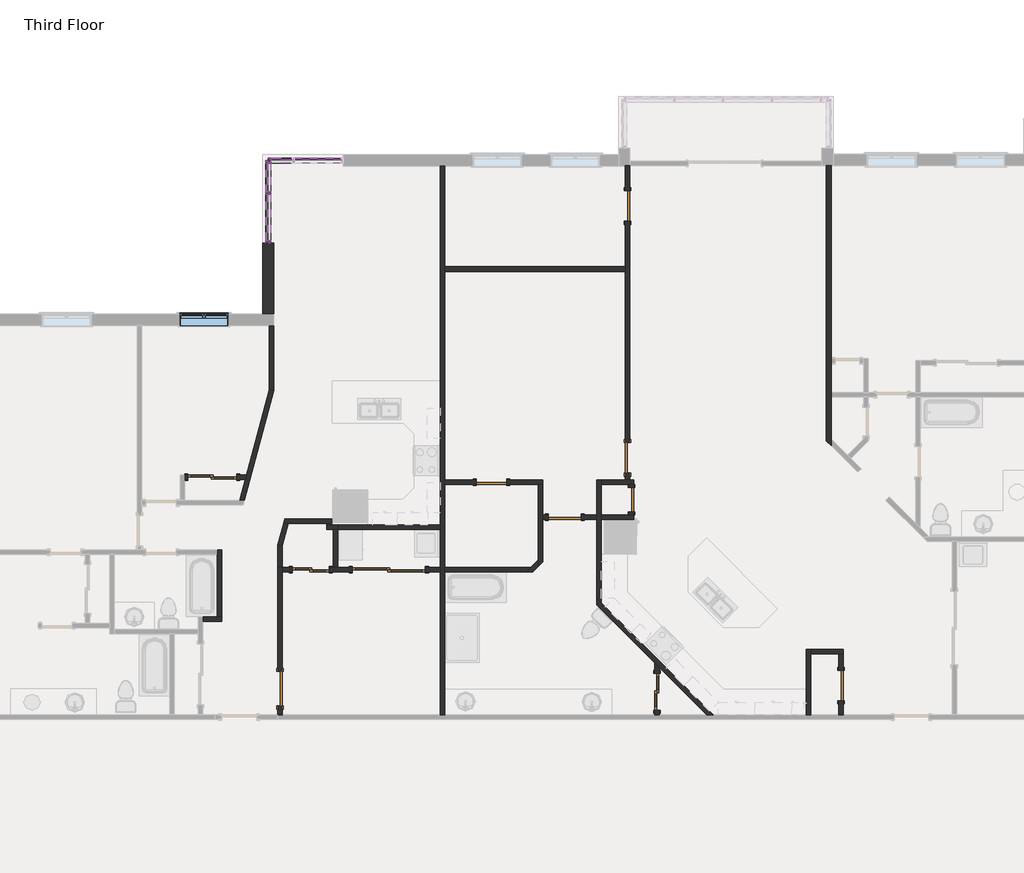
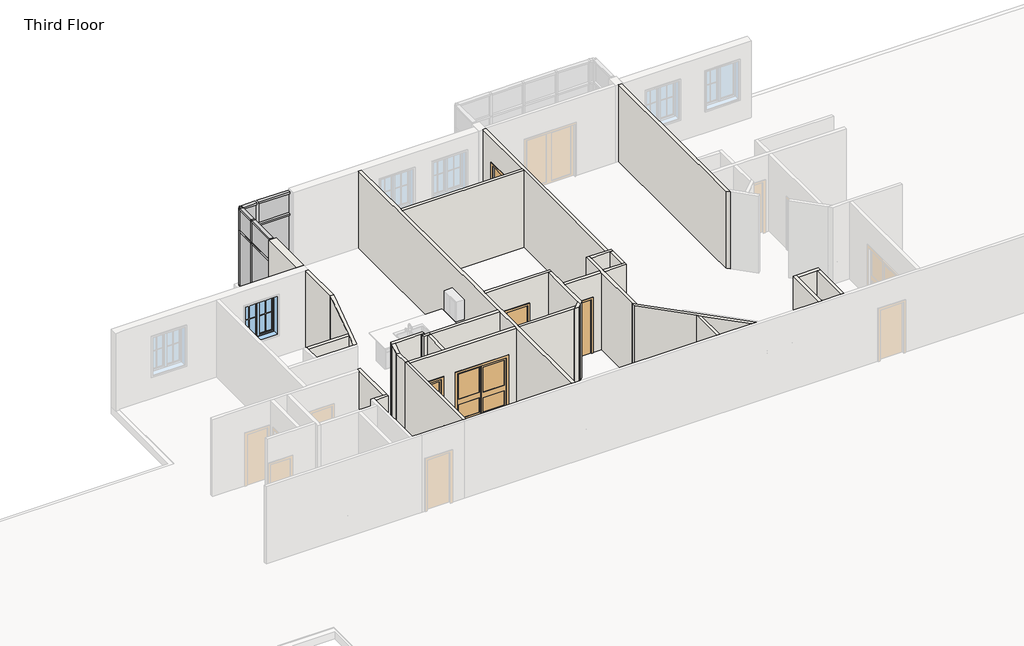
# One storey, part 9 of 17: 32 walls, 19 members, 11 doors, 8 plates, 1 window.
"""IFC4 building model written with IfcOpenShell, lengths in millimetres."""

from ifc_helpers import new_model, si_unit, frame, origin, place, context, project, spatial, polyline, outline, extrude, faceted_brep, transform, mapped, element, save
from components import door_e2285e44, door_d8f5dbb5, door_f2b275c1, door_d141acb4, door_c29894e6, door_88c23cd7, door_900f836f, door_caaf2a11, rectangular_mullion_rectangular_mullion_1_fa3625a1, rectangular_mullion_rectangular_mullion_1_7cbf0b94, rectangular_mullion_rectangular_mullion_1_a50b3cda, rectangular_mullion_rectangular_mullion_1_5cd4c5ac, rectangular_mullion_rectangular_mullion_1_6186cc23, rectangular_mullion_rectangular_mullion_1_049a2e78, rectangular_mullion_rectangular_mullion_1_13524bf9, rectangular_mullion_rectangular_mullion_1_a1888574, rectangular_mullion_rectangular_mullion_1_55d4f6ce, rectangular_mullion_rectangular_mullion_1_d8cc73e0, system_panel_glazed_0ed27d1d, system_panel_glazed_134bacdb, system_panel_glazed_53e6f9fb, system_panel_glazed_cb820e14, system_panel_glazed_7c98c5cb, system_panel_glazed_dc3c0d95, system_panel_glazed_bae44e10, system_panel_glazed_9feb64c3, window_33528cc2

model = new_model("IFC4")

# Units and contexts
model_context = context("Model", 3, world=origin())
ifc_project = project(units=[si_unit("LENGTHUNIT", "METRE", prefix="MILLI")], contexts=[model_context])

# Site, building, storey
site = spatial("IfcSite", under=ifc_project)
building = spatial("IfcBuilding", under=site)
storey = spatial("IfcBuildingStorey", under=building, Name="Third Floor", Elevation=6096.0)

# Doors
placement = place(None, origin())
door_shape = door_e2285e44(model_context)
element("IfcDoor", 1, ObjectType="Single-Flush : 24\" x 80\"", at=placement, inside=storey, context=model_context, shape_type="MappedRepresentation", body=[
    mapped(door_shape, transform((26745.480585, 7734.3572102, 6096.0), x_axis=(0.0, 1.0, 0.0), y_axis=(-1.0, 0.0, 0.0), z_axis=(0.0, 0.0, 1.0))),
])
door_2_shape = door_d8f5dbb5(model_context)
element("IfcDoor", 2, ObjectType="Single-Flush : 30\" x 80\"", at=placement, inside=storey, context=model_context, shape_type="MappedRepresentation", body=[
    mapped(door_2_shape, transform((23246.1202044, 8168.006996, 6096.0), x_axis=(-1.0, 0.0, 0.0), y_axis=(0.0, -1.0, 0.0), z_axis=(0.0, 0.0, 1.0))),
])
element("IfcDoor", 3, ObjectType="Single-Flush : 30\" x 80\"", at=placement, inside=storey, context=model_context, shape_type="MappedRepresentation", body=[
    mapped(door_2_shape, transform((31977.0076897, 3089.6091714, 6096.0), x_axis=(0.0, -1.0, 0.0), y_axis=(1.0, 0.0, 0.0), z_axis=(0.0, 0.0, 1.0))),
])
door_3_shape = door_f2b275c1(model_context)
element("IfcDoor", 4, ObjectType="Single-Flush : 30\" x 80\"", at=placement, inside=storey, context=model_context, shape_type="MappedRepresentation", body=[
    mapped(door_3_shape, transform((26645.8573571, 8777.606996, 6096.0), x_axis=(0.0, -1.0, 0.0), y_axis=(1.0, 0.0, 0.0), z_axis=(0.0, 0.0, 1.0))),
])
element("IfcDoor", 5, ObjectType="Single-Flush : 30\" x 80\"", at=placement, inside=storey, context=model_context, shape_type="MappedRepresentation", body=[
    mapped(door_3_shape, transform((26645.8573571, 15067.4365339, 6096.0), x_axis=(0.0, 1.0, 0.0), y_axis=(-1.0, 0.0, 0.0), z_axis=(0.0, 0.0, 1.0))),
])
door_4_shape = door_d141acb4(model_context)
element("IfcDoor", 6, ObjectType="Single-Flush : 32\" x 84\"", at=placement, inside=storey, context=model_context, shape_type="MappedRepresentation", body=[
    mapped(door_4_shape, transform((25078.7830518, 7300.7074244, 6096.0), x_axis=(-1.0, 0.0, 0.0), y_axis=(0.0, -1.0, 0.0), z_axis=(0.0, 0.0, 1.0))),
])
door_5_shape = door_c29894e6(model_context)
element("IfcDoor", 7, ObjectType="Single-Flush : 34\" x 80\"", at=placement, inside=storey, context=model_context, shape_type="MappedRepresentation", body=[
    mapped(door_5_shape, transform((17970.6993195, 3013.4091714, 6096.0), x_axis=(0.0, -1.0, 0.0), y_axis=(1.0, 0.0, 0.0), z_axis=(0.0, 0.0, 1.0))),
])
door_6_shape = door_88c23cd7(model_context)
element("IfcDoor", 8, ObjectType="Sliding-Closet : 36\" x 80\"", at=placement, inside=storey, context=model_context, shape_type="MappedRepresentation", body=[
    mapped(door_6_shape, transform((18737.6267988, 6113.0380642, 6096.0), x_axis=(-1.0, 0.0, 0.0), y_axis=(0.0, -1.0, 0.0), z_axis=(0.0, 0.0, 1.0))),
])
element("IfcDoor", 9, ObjectType="Sliding-Closet : 36\" x 80\"", at=placement, inside=storey, context=model_context, shape_type="MappedRepresentation", body=[
    mapped(door_6_shape, transform((27511.15388, 2937.2091714, 6096.0), x_axis=(0.0, 1.0, 0.0), y_axis=(-1.0, 0.0, 0.0), z_axis=(0.0, 0.0, 1.0))),
])
door_7_shape = door_900f836f(model_context)
element("IfcDoor", 10, ObjectType="Sliding-Closet : 48\" x 80\"", at=placement, inside=storey, context=model_context, shape_type="MappedRepresentation", body=[
    mapped(door_7_shape, transform((16278.4083594, 8170.5576127, 6096.0), x_axis=(1.0, 0.0, 0.0), y_axis=(0.0, 1.0, 0.0), z_axis=(0.0, 0.0, 1.0))),
])
door_8_shape = door_caaf2a11(model_context)
element("IfcDoor", 11, ObjectType="Sliding-Closet : 72\" x 80\"", at=placement, inside=storey, context=model_context, shape_type="MappedRepresentation", body=[
    mapped(door_8_shape, transform((20687.6058176, 6113.0380642, 6096.0), x_axis=(-1.0, 0.0, 0.0), y_axis=(0.0, -1.0, 0.0), z_axis=(0.0, 0.0, 1.0))),
])

# Members
rectangular_mullion_rectangular_mullion_1_shape = rectangular_mullion_rectangular_mullion_1_fa3625a1(model_context)
element("IfcMember", 12, ObjectType="Rectangular Mullion : Rectangular Mullion 1", at=placement, inside=storey, context=model_context, shape_type="MappedRepresentation", body=[
    mapped(rectangular_mullion_rectangular_mullion_1_shape, transform((18332.1198568, 16206.4791823, 9144.0), x_axis=(0.0, 0.0, 1.0), y_axis=(0.0, 1.0, 0.0), z_axis=(-1.0, 0.0, 0.0))),
])
rectangular_mullion_rectangular_mullion_1_2_shape = rectangular_mullion_rectangular_mullion_1_7cbf0b94(model_context)
element("IfcMember", 13, ObjectType="Rectangular Mullion : Rectangular Mullion 1", at=placement, inside=storey, context=model_context, shape_type="MappedRepresentation", body=[
    mapped(rectangular_mullion_rectangular_mullion_1_2_shape, transform((18332.1198568, 16206.4791823, 8261.35), x_axis=(0.0, 0.0, 1.0), y_axis=(0.0, 1.0, 0.0), z_axis=(-1.0, 0.0, 0.0))),
])
rectangular_mullion_rectangular_mullion_1_3_shape = rectangular_mullion_rectangular_mullion_1_a50b3cda(model_context)
element("IfcMember", 14, ObjectType="Rectangular Mullion : Rectangular Mullion 1", at=placement, inside=storey, context=model_context, shape_type="MappedRepresentation", body=[
    mapped(rectangular_mullion_rectangular_mullion_1_3_shape, transform((17678.8246608, 16206.4791823, 6096.0), x_axis=(-1.0, 0.0, 0.0), y_axis=(0.0, 1.0, 0.0), z_axis=(0.0, 0.0, -1.0))),
])
rectangular_mullion_rectangular_mullion_1_4_shape = rectangular_mullion_rectangular_mullion_1_5cd4c5ac(model_context)
element("IfcMember", 15, ObjectType="Rectangular Mullion : Rectangular Mullion 1", at=placement, inside=storey, context=model_context, shape_type="MappedRepresentation", body=[
    mapped(rectangular_mullion_rectangular_mullion_1_4_shape, transform((17678.8246608, 16206.4791823, 8261.35), x_axis=(-1.0, 0.0, 0.0), y_axis=(0.0, 1.0, 0.0), z_axis=(0.0, 0.0, -1.0))),
])
element("IfcMember", 16, ObjectType="Rectangular Mullion : Rectangular Mullion 1", at=placement, inside=storey, context=model_context, shape_type="MappedRepresentation", body=[
    mapped(rectangular_mullion_rectangular_mullion_1_shape, transform((17678.8246608, 15365.3662252, 9144.0), x_axis=(0.0, 0.0, 1.0), y_axis=(1.0, 0.0, 0.0), z_axis=(0.0, 1.0, 0.0))),
])
element("IfcMember", 17, ObjectType="Rectangular Mullion : Rectangular Mullion 1", at=placement, inside=storey, context=model_context, shape_type="MappedRepresentation", body=[
    mapped(rectangular_mullion_rectangular_mullion_1_shape, transform((17678.8246608, 14209.6662249, 6096.0), x_axis=(0.0, 0.0, -1.0), y_axis=(1.0, 0.0, 0.0), z_axis=(0.0, -1.0, 0.0))),
])
element("IfcMember", 18, ObjectType="Rectangular Mullion : Rectangular Mullion 1", at=placement, inside=storey, context=model_context, shape_type="MappedRepresentation", body=[
    mapped(rectangular_mullion_rectangular_mullion_1_3_shape, transform((17678.8246608, 16206.4791823, 6096.0), x_axis=(0.0, 1.0, 0.0), y_axis=(1.0, 0.0, 0.0), z_axis=(0.0, 0.0, -1.0))),
])
element("IfcMember", 19, ObjectType="Rectangular Mullion : Rectangular Mullion 1", at=placement, inside=storey, context=model_context, shape_type="MappedRepresentation", body=[
    mapped(rectangular_mullion_rectangular_mullion_1_4_shape, transform((17678.8246608, 16206.4791823, 8261.35), x_axis=(0.0, 1.0, 0.0), y_axis=(1.0, 0.0, 0.0), z_axis=(0.0, 0.0, -1.0))),
])
element("IfcMember", 20, ObjectType="Rectangular Mullion : Rectangular Mullion 1", at=placement, inside=storey, context=model_context, shape_type="MappedRepresentation", body=[
    mapped(rectangular_mullion_rectangular_mullion_1_4_shape, transform((17678.8246608, 14146.1662249, 9144.0), x_axis=(0.0, -1.0, 0.0), y_axis=(1.0, 0.0, 0.0), z_axis=(0.0, 0.0, 1.0))),
])
element("IfcMember", 21, ObjectType="Rectangular Mullion : Rectangular Mullion 1", at=placement, inside=storey, context=model_context, shape_type="MappedRepresentation", body=[
    mapped(rectangular_mullion_rectangular_mullion_1_3_shape, transform((17678.8246608, 14146.1662249, 8261.35), x_axis=(0.0, -1.0, 0.0), y_axis=(1.0, 0.0, 0.0), z_axis=(0.0, 0.0, 1.0))),
])
element("IfcMember", 22, ObjectType="Rectangular Mullion : Rectangular Mullion 1", at=placement, inside=storey, context=model_context, shape_type="MappedRepresentation", body=[
    mapped(rectangular_mullion_rectangular_mullion_1_2_shape, transform((17678.8246608, 15365.3662252, 8261.35), x_axis=(0.0, 0.0, 1.0), y_axis=(1.0, 0.0, 0.0), z_axis=(0.0, 1.0, 0.0))),
])
rectangular_mullion_rectangular_mullion_1_5_shape = rectangular_mullion_rectangular_mullion_1_6186cc23(model_context)
element("IfcMember", 23, ObjectType="Rectangular Mullion : Rectangular Mullion 1", at=placement, inside=storey, context=model_context, shape_type="MappedRepresentation", body=[
    mapped(rectangular_mullion_rectangular_mullion_1_5_shape, transform((17678.8246608, 15397.1162252, 6096.0), x_axis=(0.0, 1.0, 0.0), y_axis=(1.0, 0.0, 0.0), z_axis=(0.0, 0.0, -1.0))),
])
rectangular_mullion_rectangular_mullion_1_6_shape = rectangular_mullion_rectangular_mullion_1_049a2e78(model_context)
element("IfcMember", 24, ObjectType="Rectangular Mullion : Rectangular Mullion 1", at=placement, inside=storey, context=model_context, shape_type="MappedRepresentation", body=[
    mapped(rectangular_mullion_rectangular_mullion_1_6_shape, transform((17678.8246608, 15397.1162252, 8261.35), x_axis=(0.0, 1.0, 0.0), y_axis=(1.0, 0.0, 0.0), z_axis=(0.0, 0.0, -1.0))),
])
rectangular_mullion_rectangular_mullion_1_7_shape = rectangular_mullion_rectangular_mullion_1_13524bf9(model_context)
element("IfcMember", 25, ObjectType="Rectangular Mullion : Rectangular Mullion 1", at=placement, inside=storey, context=model_context, shape_type="MappedRepresentation", body=[
    mapped(rectangular_mullion_rectangular_mullion_1_7_shape, transform((17678.8246608, 16142.9791823, 9144.0), x_axis=(0.0, 0.0, 1.0), y_axis=(1.0, 0.0, 0.0), z_axis=(0.0, 1.0, 0.0))),
])
element("IfcMember", 26, ObjectType="Rectangular Mullion : Rectangular Mullion 1", at=placement, inside=storey, context=model_context, shape_type="MappedRepresentation", body=[
    mapped(rectangular_mullion_rectangular_mullion_1_7_shape, transform((17678.8246608, 15428.8662252, 6096.0), x_axis=(0.0, 0.0, -1.0), y_axis=(1.0, 0.0, 0.0), z_axis=(0.0, -1.0, 0.0))),
])
rectangular_mullion_rectangular_mullion_1_8_shape = rectangular_mullion_rectangular_mullion_1_a1888574(model_context)
element("IfcMember", 27, ObjectType="Rectangular Mullion : Rectangular Mullion 1", at=placement, inside=storey, context=model_context, shape_type="MappedRepresentation", body=[
    mapped(rectangular_mullion_rectangular_mullion_1_8_shape, transform((17678.8246608, 16142.9791823, 8261.35), x_axis=(0.0, 0.0, 1.0), y_axis=(1.0, 0.0, 0.0), z_axis=(0.0, 1.0, 0.0))),
])
rectangular_mullion_rectangular_mullion_1_9_shape = rectangular_mullion_rectangular_mullion_1_55d4f6ce(model_context)
element("IfcMember", 28, ObjectType="Rectangular Mullion : Rectangular Mullion 1", at=placement, inside=storey, context=model_context, shape_type="MappedRepresentation", body=[
    mapped(rectangular_mullion_rectangular_mullion_1_9_shape, transform((17742.3246608, 16206.4791823, 9144.0), x_axis=(0.0, 0.0, 1.0), y_axis=(0.0, 1.0, 0.0), z_axis=(-1.0, 0.0, 0.0))),
])
element("IfcMember", 29, ObjectType="Rectangular Mullion : Rectangular Mullion 1", at=placement, inside=storey, context=model_context, shape_type="MappedRepresentation", body=[
    mapped(rectangular_mullion_rectangular_mullion_1_9_shape, transform((18268.6198568, 16206.4791823, 6096.0), x_axis=(0.0, 0.0, -1.0), y_axis=(0.0, 1.0, 0.0), z_axis=(1.0, 0.0, 0.0))),
])
rectangular_mullion_rectangular_mullion_1_10_shape = rectangular_mullion_rectangular_mullion_1_d8cc73e0(model_context)
element("IfcMember", 30, ObjectType="Rectangular Mullion : Rectangular Mullion 1", at=placement, inside=storey, context=model_context, shape_type="MappedRepresentation", body=[
    mapped(rectangular_mullion_rectangular_mullion_1_10_shape, transform((17742.3246608, 16206.4791823, 8261.35), x_axis=(0.0, 0.0, 1.0), y_axis=(0.0, 1.0, 0.0), z_axis=(-1.0, 0.0, 0.0))),
])

# Plates
system_panel_glazed_shape = system_panel_glazed_0ed27d1d(model_context)
element("IfcPlate", 31, ObjectType="System Panel : Glazed", at=placement, inside=storey, context=model_context, shape_type="MappedRepresentation", body=[
    mapped(system_panel_glazed_shape, transform((18909.969857, 16206.4791823, 6159.5), x_axis=(-1.0, 0.0, 0.0), y_axis=(0.0, -1.0, 0.0), z_axis=(0.0, 0.0, 1.0))),
])
system_panel_glazed_2_shape = system_panel_glazed_134bacdb(model_context)
element("IfcPlate", 32, ObjectType="System Panel : Glazed", at=placement, inside=storey, context=model_context, shape_type="MappedRepresentation", body=[
    mapped(system_panel_glazed_2_shape, transform((18909.969857, 16206.4791823, 8293.1), x_axis=(-1.0, 0.0, 0.0), y_axis=(0.0, -1.0, 0.0), z_axis=(0.0, 0.0, 1.0))),
])
system_panel_glazed_3_shape = system_panel_glazed_53e6f9fb(model_context)
element("IfcPlate", 33, ObjectType="System Panel : Glazed", at=placement, inside=storey, context=model_context, shape_type="MappedRepresentation", body=[
    mapped(system_panel_glazed_3_shape, transform((17678.8246608, 14787.5162251, 6159.5), x_axis=(0.0, 1.0, 0.0), y_axis=(-1.0, 0.0, 0.0), z_axis=(0.0, 0.0, 1.0))),
])
system_panel_glazed_4_shape = system_panel_glazed_cb820e14(model_context)
element("IfcPlate", 34, ObjectType="System Panel : Glazed", at=placement, inside=storey, context=model_context, shape_type="MappedRepresentation", body=[
    mapped(system_panel_glazed_4_shape, transform((17678.8246608, 14787.5162251, 8293.1), x_axis=(0.0, 1.0, 0.0), y_axis=(-1.0, 0.0, 0.0), z_axis=(0.0, 0.0, 1.0))),
])
system_panel_glazed_5_shape = system_panel_glazed_7c98c5cb(model_context)
element("IfcPlate", 35, ObjectType="System Panel : Glazed", at=placement, inside=storey, context=model_context, shape_type="MappedRepresentation", body=[
    mapped(system_panel_glazed_5_shape, transform((17678.8246608, 15785.9227038, 6159.5), x_axis=(0.0, 1.0, 0.0), y_axis=(-1.0, 0.0, 0.0), z_axis=(0.0, 0.0, 1.0))),
])
system_panel_glazed_6_shape = system_panel_glazed_dc3c0d95(model_context)
element("IfcPlate", 36, ObjectType="System Panel : Glazed", at=placement, inside=storey, context=model_context, shape_type="MappedRepresentation", body=[
    mapped(system_panel_glazed_6_shape, transform((17678.8246608, 15785.9227038, 8293.1), x_axis=(0.0, 1.0, 0.0), y_axis=(-1.0, 0.0, 0.0), z_axis=(0.0, 0.0, 1.0))),
])
system_panel_glazed_7_shape = system_panel_glazed_bae44e10(model_context)
element("IfcPlate", 37, ObjectType="System Panel : Glazed", at=placement, inside=storey, context=model_context, shape_type="MappedRepresentation", body=[
    mapped(system_panel_glazed_7_shape, transform((18005.4722588, 16206.4791823, 6159.5), x_axis=(-1.0, 0.0, 0.0), y_axis=(0.0, -1.0, 0.0), z_axis=(0.0, 0.0, 1.0))),
])
system_panel_glazed_8_shape = system_panel_glazed_9feb64c3(model_context)
element("IfcPlate", 38, ObjectType="System Panel : Glazed", at=placement, inside=storey, context=model_context, shape_type="MappedRepresentation", body=[
    mapped(system_panel_glazed_8_shape, transform((18005.4722588, 16206.4791823, 8293.1), x_axis=(-1.0, 0.0, 0.0), y_axis=(0.0, -1.0, 0.0), z_axis=(0.0, 0.0, 1.0))),
])

# Walls
element("IfcWall", 39, ObjectType="Exterior - Brick on Wood Stud", at=placement, inside=storey, context=model_context, shape_type="SweptSolid", body=[
    extrude(outline(polyline([(17537.5371608, 12370.2302849), (17537.5371608, 14146.1662249), (17820.1121608, 14146.1662249), (17820.1121608, 12370.2302849), (17537.5371608, 12370.2302849)])), frame((0.0, 0.0, 6096.0), z_axis=(0.0, 0.0, 1.0), x_axis=(1.0, 0.0, 0.0)), (0.0, 0.0, 1.0), 3048.0),
])
element("IfcWall", 40, ObjectType="Interior - 4 1/2\" Partition", at=placement, inside=storey, context=model_context, shape_type="Brep", body=[
    faceted_brep([(22080.2073571, 2359.3591714, 6096.0), (22080.2073571, 5928.8880642, 6096.0), (22080.2073571, 6043.1880642, 6096.0), (22080.2073571, 8110.856996, 6096.0), (22080.2073571, 8225.156996, 6096.0), (22080.2073571, 13435.7238431, 6096.0), (22080.2073571, 13550.0238431, 6096.0), (22080.2073571, 16065.1916823, 6096.0), (22080.2073571, 16065.1916823, 9144.0), (22080.2073571, 13550.0238431, 9144.0), (22080.2073571, 13435.7238431, 9144.0), (22080.2073571, 8225.156996, 9144.0), (22080.2073571, 8110.856996, 9144.0), (22080.2073571, 6043.1880642, 9144.0), (22080.2073571, 5928.8880642, 9144.0), (22080.2073571, 2359.3591714, 9144.0), (21965.9073571, 2359.3591714, 6096.0), (21965.9073571, 2359.3591714, 9144.0), (21965.9073571, 5928.8880642, 9144.0), (21965.9073571, 6043.1880642, 9144.0), (21965.9073571, 6988.905075, 9144.0), (21965.9073571, 7103.205075, 9144.0), (21965.9073571, 16065.1916823, 9144.0), (21965.9073571, 16065.1916823, 6096.0), (21965.9073571, 7103.205075, 6096.0), (21965.9073571, 6988.905075, 6096.0), (21965.9073571, 6043.1880642, 6096.0), (21965.9073571, 5928.8880642, 6096.0)], [[[0, 1, 2, 3, 4, 5, 6, 7, 8, 9, 10, 11, 12, 13, 14, 15]], [[16, 17, 18, 19, 20, 21, 22, 23, 24, 25, 26, 27]], [[7, 6, 5, 4, 3, 2, 1, 0, 16, 27, 26, 25, 24, 23]], [[15, 14, 13, 12, 11, 10, 9, 8, 22, 21, 20, 19, 18, 17]], [[0, 15, 17, 16]], [[8, 7, 23, 22]]]),
])
element("IfcWall", 41, ObjectType="Interior - 4 1/2\" Partition", at=placement, inside=storey, context=model_context, shape_type="Brep", body=[
    faceted_brep([(31724.597822, 9089.3944324, 6096.0), (31724.597822, 9251.0390425, 6096.0), (31724.597822, 10300.8410099, 6096.0), (31724.597822, 10415.1410099, 6096.0), (31724.597822, 11149.7238431, 6096.0), (31724.597822, 11264.0238431, 6096.0), (31724.597822, 16077.0865339, 6096.0), (31724.597822, 16077.0865339, 9144.0), (31724.597822, 11264.0238431, 9144.0), (31724.597822, 11149.7238431, 9144.0), (31724.597822, 10415.1410099, 9144.0), (31724.597822, 10300.8410099, 9144.0), (31724.597822, 9251.0390425, 9144.0), (31724.597822, 9089.3944324, 9144.0), (31610.297822, 9203.6944324, 6096.0), (31610.297822, 9203.6944324, 9144.0), (31610.297822, 16077.0865339, 9144.0), (31610.297822, 16077.0865339, 6096.0)], [[[0, 1, 2, 3, 4, 5, 6, 7, 8, 9, 10, 11, 12, 13]], [[14, 15, 16, 17]], [[6, 5, 4, 3, 2, 1, 0, 14, 17]], [[13, 12, 11, 10, 9, 8, 7, 16, 15]], [[0, 13, 15, 14]], [[7, 6, 17, 16]]]),
])
element("IfcWall", 42, ObjectType="Interior - 4 1/2\" Partition", at=placement, inside=storey, context=model_context, shape_type="SweptSolid", body=[
    extrude(outline(polyline([(26588.7073571, 13435.7238431), (22080.2073571, 13435.7238431), (22080.2073571, 13550.0238431), (26588.7073571, 13550.0238431), (26588.7073571, 13435.7238431)])), frame((0.0, 0.0, 6096.0), z_axis=(0.0, 0.0, 1.0), x_axis=(1.0, 0.0, 0.0)), (0.0, 0.0, 1.0), 3048.0),
])
element("IfcWall", 43, ObjectType="Interior - 4 1/2\" Partition", at=placement, inside=storey, context=model_context, shape_type="Brep", body=[
    faceted_brep([(26703.0073571, 15448.4365339, 8128.0), (26703.0073571, 15448.4365339, 6096.0), (26703.0073571, 16077.0865339, 6096.0), (26703.0073571, 16077.0865339, 9144.0), (26703.0073571, 8225.156996, 9144.0), (26703.0073571, 8225.156996, 6096.0), (26703.0073571, 8396.606996, 6096.0), (26703.0073571, 8396.606996, 8128.0), (26703.0073571, 9158.606996, 8128.0), (26703.0073571, 9158.606996, 6096.0), (26703.0073571, 14686.4365339, 6096.0), (26703.0073571, 14686.4365339, 8128.0), (26588.7073571, 16077.0865339, 6096.0), (26588.7073571, 15448.4365339, 6096.0), (26588.7073571, 15448.4365339, 8128.0), (26588.7073571, 14686.4365339, 8128.0), (26588.7073571, 14686.4365339, 6096.0), (26588.7073571, 13550.0238431, 6096.0), (26588.7073571, 13435.7238431, 6096.0), (26588.7073571, 9158.606996, 6096.0), (26588.7073571, 9158.606996, 8128.0), (26588.7073571, 8396.606996, 8128.0), (26588.7073571, 8396.606996, 6096.0), (26588.7073571, 8225.156996, 6096.0), (26588.7073571, 8225.156996, 9144.0), (26588.7073571, 13435.7238431, 9144.0), (26588.7073571, 13550.0238431, 9144.0), (26588.7073571, 16077.0865339, 9144.0)], [[[0, 1, 2, 3, 4, 5, 6, 7, 8, 9, 10, 11]], [[12, 13, 14, 15, 16, 17, 18, 19, 20, 21, 22, 23, 24, 25, 26, 27]], [[23, 22, 6, 5]], [[10, 9, 19, 18, 17, 16]], [[2, 1, 13, 12]], [[4, 3, 27, 26, 25, 24]], [[7, 6, 22, 21]], [[8, 7, 21, 20]], [[9, 8, 20, 19]], [[14, 13, 1, 0]], [[15, 14, 0, 11]], [[16, 15, 11, 10]], [[5, 4, 24, 23]], [[3, 2, 12, 27]]]),
])
element("IfcWall", 44, ObjectType="Interior - 4 1/2\" Partition", at=placement, inside=storey, context=model_context, shape_type="Brep", body=[
    faceted_brep([(25879.20388, 5101.9499009, 6096.0), (27327.00388, 3654.1499009, 6096.0), (27441.30388, 3539.8499009, 6096.0), (28621.7946095, 2359.3591714, 6096.0), (28621.7946095, 2359.3591714, 9144.0), (27441.30388, 3539.8499009, 9144.0), (27327.00388, 3654.1499009, 9144.0), (25879.20388, 5101.9499009, 9144.0), (25879.20388, 5263.5945111, 6096.0), (25879.20388, 5263.5945111, 9144.0), (25993.50388, 5149.2945111, 9144.0), (28783.4392197, 2359.3591714, 9144.0), (28783.4392197, 2359.3591714, 6096.0), (25993.50388, 5149.2945111, 6096.0)], [[[0, 1, 2, 3, 4, 5, 6, 7]], [[8, 9, 10, 11, 12, 13]], [[3, 2, 1, 0, 8, 13, 12]], [[7, 6, 5, 4, 11, 10, 9]], [[0, 7, 9, 8]], [[4, 3, 12, 11]]]),
])
element("IfcWall", 45, ObjectType="Interior - 4 1/2\" Partition", at=placement, inside=storey, context=model_context, shape_type="Brep", body=[
    faceted_brep([(25879.20388, 8225.156996, 6096.0), (25879.20388, 7357.8574244, 6096.0), (25879.20388, 7243.5574244, 6096.0), (25879.20388, 5263.5945111, 6096.0), (25879.20388, 5263.5945111, 9144.0), (25879.20388, 7243.5574244, 9144.0), (25879.20388, 7357.8574244, 9144.0), (25879.20388, 8225.156996, 9144.0), (25993.50388, 8225.156996, 6096.0), (25993.50388, 8225.156996, 9144.0), (25993.50388, 8110.856996, 9144.0), (25993.50388, 7357.8574244, 9144.0), (25993.50388, 7243.5574244, 9144.0), (25993.50388, 5149.2945111, 9144.0), (25993.50388, 5149.2945111, 6096.0), (25993.50388, 7243.5574244, 6096.0), (25993.50388, 7357.8574244, 6096.0), (25993.50388, 8110.856996, 6096.0)], [[[0, 1, 2, 3, 4, 5, 6, 7]], [[8, 9, 10, 11, 12, 13, 14, 15, 16, 17]], [[3, 2, 1, 0, 8, 17, 16, 15, 14]], [[7, 6, 5, 4, 13, 12, 11, 10, 9]], [[0, 7, 9, 8]], [[4, 3, 14, 13]]]),
])
element("IfcWall", 46, ObjectType="Interior - 4 1/2\" Partition", at=placement, inside=storey, context=model_context, shape_type="Brep", body=[
    faceted_brep([(26802.630585, 8225.156996, 6096.0), (26703.0073571, 8225.156996, 6096.0), (26588.7073571, 8225.156996, 6096.0), (25993.50388, 8225.156996, 6096.0), (25993.50388, 8225.156996, 9144.0), (26588.7073571, 8225.156996, 9144.0), (26703.0073571, 8225.156996, 9144.0), (26802.630585, 8225.156996, 9144.0), (26802.630585, 8110.856996, 6096.0), (26802.630585, 8110.856996, 9144.0), (26688.330585, 8110.856996, 9144.0), (25993.50388, 8110.856996, 9144.0), (25993.50388, 8110.856996, 6096.0), (26688.330585, 8110.856996, 6096.0)], [[[0, 1, 2, 3, 4, 5, 6, 7]], [[8, 9, 10, 11, 12, 13]], [[3, 2, 1, 0, 8, 13, 12]], [[7, 6, 5, 4, 11, 10, 9]], [[0, 7, 9, 8]], [[4, 3, 12, 11]]]),
])
element("IfcWall", 47, ObjectType="Interior - 4 1/2\" Partition", at=placement, inside=storey, context=model_context, shape_type="Brep", body=[
    faceted_brep([(24672.3830518, 7243.5574244, 6096.0), (24672.3830518, 7243.5574244, 8229.6), (25485.1830518, 7243.5574244, 8229.6), (25485.1830518, 7243.5574244, 6096.0), (25879.20388, 7243.5574244, 6096.0), (25879.20388, 7243.5574244, 9144.0), (24526.3330518, 7243.5574244, 9144.0), (24526.3330518, 7243.5574244, 6096.0), (24672.3830518, 7357.8574244, 8229.6), (24672.3830518, 7357.8574244, 6096.0), (24526.3330518, 7357.8574244, 6096.0), (24526.3330518, 7357.8574244, 9144.0), (25879.20388, 7357.8574244, 9144.0), (25879.20388, 7357.8574244, 6096.0), (25485.1830518, 7357.8574244, 6096.0), (25485.1830518, 7357.8574244, 8229.6)], [[[0, 1, 2, 3, 4, 5, 6, 7]], [[8, 9, 10, 11, 12, 13, 14, 15]], [[9, 0, 7, 10]], [[3, 14, 13, 4]], [[11, 6, 5, 12]], [[1, 0, 9, 8]], [[2, 1, 8, 15]], [[3, 2, 15, 14]], [[7, 6, 11, 10]], [[5, 4, 13, 12]]]),
    faceted_brep([(26802.630585, 7243.5574244, 6096.0), (26802.630585, 7243.5574244, 9144.0), (25993.50388, 7243.5574244, 9144.0), (25993.50388, 7243.5574244, 6096.0), (26802.630585, 7357.8574244, 9144.0), (26802.630585, 7357.8574244, 6096.0), (26688.330585, 7357.8574244, 6096.0), (25993.50388, 7357.8574244, 6096.0), (25993.50388, 7357.8574244, 9144.0), (26688.330585, 7357.8574244, 9144.0)], [[[0, 1, 2, 3]], [[4, 5, 6, 7, 8, 9]], [[5, 0, 3, 7, 6]], [[1, 4, 9, 8, 2]], [[1, 0, 5, 4]], [[3, 2, 8, 7]]]),
])
element("IfcWall", 48, ObjectType="Interior - 4 1/2\" Partition", at=placement, inside=storey, context=model_context, shape_type="SweptSolid", body=[
    extrude(outline(polyline([(8110.856996, 6096.0), (8039.1572102, 6096.0), (8039.1572102, 8128.0), (7429.5572102, 8128.0), (7429.5572102, 6096.0), (7357.8574244, 6096.0), (7357.8574244, 9144.0), (8110.856996, 9144.0), (8110.856996, 6096.0)])), frame((26688.330585, 0.0, 0.0), z_axis=(1.0, 0.0, 0.0), x_axis=(0.0, 1.0, 0.0)), (0.0, 0.0, 1.0), 114.3),
])
element("IfcWall", 49, ObjectType="Interior - 4 1/2\" Partition", at=placement, inside=storey, context=model_context, shape_type="Brep", body=[
    faceted_brep([(22080.2073571, 8110.856996, 6096.0), (22865.1202044, 8110.856996, 6096.0), (22865.1202044, 8110.856996, 8128.0), (23627.1202044, 8110.856996, 8128.0), (23627.1202044, 8110.856996, 6096.0), (24412.0330518, 8110.856996, 6096.0), (24526.3330518, 8110.856996, 6096.0), (24526.3330518, 8110.856996, 9144.0), (24412.0330518, 8110.856996, 9144.0), (22080.2073571, 8110.856996, 9144.0), (22865.1202044, 8225.156996, 8128.0), (22865.1202044, 8225.156996, 6096.0), (22080.2073571, 8225.156996, 6096.0), (22080.2073571, 8225.156996, 9144.0), (24526.3330518, 8225.156996, 9144.0), (24526.3330518, 8225.156996, 6096.0), (23627.1202044, 8225.156996, 6096.0), (23627.1202044, 8225.156996, 8128.0)], [[[0, 1, 2, 3, 4, 5, 6, 7, 8, 9]], [[10, 11, 12, 13, 14, 15, 16, 17]], [[16, 15, 6, 5, 4]], [[12, 11, 1, 0]], [[9, 8, 7, 14, 13]], [[2, 1, 11, 10]], [[3, 2, 10, 17]], [[4, 3, 17, 16]], [[7, 6, 15, 14]], [[0, 9, 13, 12]]]),
])
element("IfcWall", 50, ObjectType="Interior - 4 1/2\" Partition", at=placement, inside=storey, context=model_context, shape_type="Brep", body=[
    faceted_brep([(24412.0330518, 8110.856996, 6096.0), (24412.0330518, 6225.2365161, 6096.0), (24412.0330518, 6063.591906, 6096.0), (24412.0330518, 6063.591906, 9144.0), (24412.0330518, 6225.2365161, 9144.0), (24412.0330518, 8110.856996, 9144.0), (24526.3330518, 8110.856996, 6096.0), (24526.3330518, 8110.856996, 9144.0), (24526.3330518, 7357.8574244, 9144.0), (24526.3330518, 7243.5574244, 9144.0), (24526.3330518, 6177.891906, 9144.0), (24526.3330518, 6177.891906, 6096.0), (24526.3330518, 7243.5574244, 6096.0), (24526.3330518, 7357.8574244, 6096.0)], [[[0, 1, 2, 3, 4, 5]], [[6, 7, 8, 9, 10, 11, 12, 13]], [[2, 1, 0, 6, 13, 12, 11]], [[5, 4, 3, 10, 9, 8, 7]], [[3, 2, 11, 10]], [[0, 5, 7, 6]]]),
])
element("IfcWall", 51, ObjectType="Interior - 4 1/2\" Partition", at=placement, inside=storey, context=model_context, shape_type="Brep", body=[
    faceted_brep([(24412.0330518, 6225.2365161, 6096.0), (24229.9845998, 6043.1880642, 6096.0), (24115.6845998, 5928.8880642, 6096.0), (24115.6845998, 5928.8880642, 9144.0), (24229.9845998, 6043.1880642, 9144.0), (24412.0330518, 6225.2365161, 9144.0), (24412.0330518, 6063.591906, 6096.0), (24412.0330518, 6063.591906, 9144.0), (24277.3292099, 5928.8880642, 9144.0), (24277.3292099, 5928.8880642, 6096.0)], [[[0, 1, 2, 3, 4, 5]], [[6, 7, 8, 9]], [[2, 1, 0, 6, 9]], [[5, 4, 3, 8, 7]], [[3, 2, 9, 8]], [[0, 5, 7, 6]]]),
])
element("IfcWall", 52, ObjectType="Interior - 4 1/2\" Partition", at=placement, inside=storey, context=model_context, shape_type="SweptSolid", body=[
    extrude(outline(polyline([(22080.2073571, 6043.1880642), (24229.9845998, 6043.1880642), (24115.6845998, 5928.8880642), (22080.2073571, 5928.8880642), (22080.2073571, 6043.1880642)])), frame((0.0, 0.0, 6096.0), z_axis=(0.0, 0.0, 1.0), x_axis=(1.0, 0.0, 0.0)), (0.0, 0.0, 1.0), 3048.0),
])
element("IfcWall", 53, ObjectType="Interior - 4 1/2\" Partition", at=placement, inside=storey, context=model_context, shape_type="Brep", body=[
    faceted_brep([(31221.3576897, 2359.3591714, 6096.0), (31221.3576897, 3878.5301459, 6096.0), (31221.3576897, 3992.8301459, 6096.0), (31221.3576897, 3992.8301459, 9144.0), (31221.3576897, 3878.5301459, 9144.0), (31221.3576897, 2359.3591714, 9144.0), (31107.0576897, 2359.3591714, 6096.0), (31107.0576897, 2359.3591714, 9144.0), (31107.0576897, 3992.8301459, 9144.0), (31107.0576897, 3992.8301459, 6096.0)], [[[0, 1, 2, 3, 4, 5]], [[6, 7, 8, 9]], [[2, 1, 0, 6, 9]], [[5, 4, 3, 8, 7]], [[3, 2, 9, 8]], [[0, 5, 7, 6]]]),
])
element("IfcWall", 54, ObjectType="Interior - 4 1/2\" Partition", at=placement, inside=storey, context=model_context, shape_type="Brep", body=[
    faceted_brep([(31221.3576897, 3878.5301459, 6096.0), (31919.8576897, 3878.5301459, 6096.0), (32034.1576897, 3878.5301459, 6096.0), (32034.1576897, 3878.5301459, 9144.0), (31919.8576897, 3878.5301459, 9144.0), (31221.3576897, 3878.5301459, 9144.0), (31221.3576897, 3992.8301459, 6096.0), (31221.3576897, 3992.8301459, 9144.0), (32034.1576897, 3992.8301459, 9144.0), (32034.1576897, 3992.8301459, 6096.0)], [[[0, 1, 2, 3, 4, 5]], [[6, 7, 8, 9]], [[2, 1, 0, 6, 9]], [[5, 4, 3, 8, 7]], [[3, 2, 9, 8]], [[0, 5, 7, 6]]]),
])
element("IfcWall", 55, ObjectType="Interior - 4 1/2\" Partition", at=placement, inside=storey, context=model_context, shape_type="SweptSolid", body=[
    extrude(outline(polyline([(2708.6091714, 8128.0), (2708.6091714, 6096.0), (2359.3591714, 6096.0), (2359.3591714, 9144.0), (3878.5301459, 9144.0), (3878.5301459, 6096.0), (3470.6091714, 6096.0), (3470.6091714, 8128.0), (2708.6091714, 8128.0)])), frame((31919.8576897, 0.0, 0.0), z_axis=(1.0, 0.0, 0.0), x_axis=(0.0, 1.0, 0.0)), (0.0, 0.0, 1.0), 114.3),
])
element("IfcWall", 56, ObjectType="Interior - 4 1/2\" Partition", at=placement, inside=storey, context=model_context, shape_type="Brep", body=[
    faceted_brep([(18027.8493195, 2359.3591714, 6096.0), (18027.8493195, 2581.6091714, 6096.0), (18027.8493195, 2581.6091714, 8128.0), (18027.8493195, 3445.2091714, 8128.0), (18027.8493195, 3445.2091714, 6096.0), (18027.8493195, 5928.8880642, 6096.0), (18027.8493195, 6043.1880642, 6096.0), (18027.8493195, 6043.1880642, 9144.0), (18027.8493195, 5928.8880642, 9144.0), (18027.8493195, 2359.3591714, 9144.0), (17913.5493195, 2581.6091714, 8128.0), (17913.5493195, 2581.6091714, 6096.0), (17913.5493195, 2359.3591714, 6096.0), (17913.5493195, 2359.3591714, 9144.0), (17913.5493195, 6043.1880642, 9144.0), (17913.5493195, 6043.1880642, 6096.0), (17913.5493195, 3445.2091714, 6096.0), (17913.5493195, 3445.2091714, 8128.0)], [[[0, 1, 2, 3, 4, 5, 6, 7, 8, 9]], [[10, 11, 12, 13, 14, 15, 16, 17]], [[16, 15, 6, 5, 4]], [[12, 11, 1, 0]], [[9, 8, 7, 14, 13]], [[2, 1, 11, 10]], [[3, 2, 10, 17]], [[4, 3, 17, 16]], [[7, 6, 15, 14]], [[0, 9, 13, 12]]]),
])
element("IfcWall", 57, ObjectType="Interior - 4 1/2\" Partition", at=placement, inside=storey, context=model_context, shape_type="Brep", body=[
    faceted_brep([(18027.8493195, 5928.8880642, 6096.0), (18280.4267988, 5928.8880642, 6096.0), (18280.4267988, 5928.8880642, 8128.0), (19194.8267988, 5928.8880642, 8128.0), (19194.8267988, 5928.8880642, 6096.0), (19773.2058176, 5928.8880642, 6096.0), (19773.2058176, 5928.8880642, 8128.0), (21602.0058176, 5928.8880642, 8128.0), (21602.0058176, 5928.8880642, 6096.0), (21965.9073571, 5928.8880642, 6096.0), (21965.9073571, 5928.8880642, 9144.0), (18027.8493195, 5928.8880642, 9144.0), (18280.4267988, 6043.1880642, 8128.0), (18280.4267988, 6043.1880642, 6096.0), (18027.8493195, 6043.1880642, 6096.0), (18027.8493195, 6043.1880642, 9144.0), (19295.0042781, 6043.1880642, 9144.0), (19409.3042781, 6043.1880642, 9144.0), (21965.9073571, 6043.1880642, 9144.0), (21965.9073571, 6043.1880642, 6096.0), (21602.0058176, 6043.1880642, 6096.0), (21602.0058176, 6043.1880642, 8128.0), (19773.2058176, 6043.1880642, 8128.0), (19773.2058176, 6043.1880642, 6096.0), (19409.3042781, 6043.1880642, 6096.0), (19295.0042781, 6043.1880642, 6096.0), (19194.8267988, 6043.1880642, 6096.0), (19194.8267988, 6043.1880642, 8128.0)], [[[0, 1, 2, 3, 4, 5, 6, 7, 8, 9, 10, 11]], [[12, 13, 14, 15, 16, 17, 18, 19, 20, 21, 22, 23, 24, 25, 26, 27]], [[20, 19, 9, 8]], [[14, 13, 1, 0]], [[26, 25, 24, 23, 5, 4]], [[11, 10, 18, 17, 16, 15]], [[8, 7, 21, 20]], [[6, 5, 23, 22]], [[7, 6, 22, 21]], [[4, 3, 27, 26]], [[2, 1, 13, 12]], [[3, 2, 12, 27]], [[0, 11, 15, 14]], [[10, 9, 19, 18]]]),
])
element("IfcWall", 58, ObjectType="Interior - 4 1/2\" Partition", at=placement, inside=storey, context=model_context, shape_type="SweptSolid", body=[
    extrude(outline(polyline([(18027.8493195, 6586.3590874), (18027.8493195, 6043.1880642), (17913.5493195, 6043.1880642), (17913.5493195, 6601.4069679), (18027.8493195, 6586.3590874)])), frame((0.0, 0.0, 6096.0), z_axis=(0.0, 0.0, 1.0), x_axis=(1.0, 0.0, 0.0)), (0.0, 0.0, 1.0), 3048.0),
])
element("IfcWall", 59, ObjectType="Interior - 4 1/2\" Partition", at=placement, inside=storey, context=model_context, shape_type="Brep", body=[
    faceted_brep([(18059.0915565, 7144.5779911, 6096.0), (18177.4236239, 7144.5779911, 6096.0), (19142.6042781, 7144.5779911, 6096.0), (19256.9042781, 7144.5779911, 6096.0), (19256.9042781, 7144.5779911, 9144.0), (19142.6042781, 7144.5779911, 9144.0), (18177.4236239, 7144.5779911, 9144.0), (18059.0915565, 7144.5779911, 9144.0), (18089.7181492, 7258.8779911, 6096.0), (18089.7181492, 7258.8779911, 9144.0), (19256.9042781, 7258.8779911, 9144.0), (19256.9042781, 7258.8779911, 6096.0)], [[[0, 1, 2, 3, 4, 5, 6, 7]], [[8, 9, 10, 11]], [[3, 2, 1, 0, 8, 11]], [[7, 6, 5, 4, 10, 9]], [[0, 7, 9, 8]], [[4, 3, 11, 10]]]),
])
element("IfcWall", 60, ObjectType="Interior - 4 1/2\" Partition", at=placement, inside=storey, context=model_context, shape_type="SweptSolid", body=[
    extrude(outline(polyline([(19142.6042781, 7103.205075), (19142.6042781, 7144.5779911), (19256.9042781, 7144.5779911), (19256.9042781, 7103.205075), (19142.6042781, 7103.205075)])), frame((0.0, 0.0, 6096.0), z_axis=(0.0, 0.0, 1.0), x_axis=(1.0, 0.0, 0.0)), (0.0, 0.0, 1.0), 3048.0),
])
element("IfcWall", 61, ObjectType="Interior - 4 1/2\" Partition", at=placement, inside=storey, context=model_context, shape_type="Brep", body=[
    faceted_brep([(19142.6042781, 6988.905075, 6096.0), (19295.0042781, 6988.905075, 6096.0), (19409.3042781, 6988.905075, 6096.0), (19409.3042781, 6988.905075, 9144.0), (19295.0042781, 6988.905075, 9144.0), (19142.6042781, 6988.905075, 9144.0), (19142.6042781, 7103.205075, 6096.0), (19142.6042781, 7103.205075, 9144.0), (19256.9042781, 7103.205075, 9144.0), (19409.3042781, 7103.205075, 9144.0), (19409.3042781, 7103.205075, 6096.0), (19256.9042781, 7103.205075, 6096.0)], [[[0, 1, 2, 3, 4, 5]], [[6, 7, 8, 9, 10, 11]], [[2, 1, 0, 6, 11, 10]], [[5, 4, 3, 9, 8, 7]], [[3, 2, 10, 9]], [[0, 5, 7, 6]]]),
])
element("IfcWall", 62, ObjectType="Interior - 4 1/2\" Partition", at=placement, inside=storey, context=model_context, shape_type="SweptSolid", body=[
    extrude(outline(polyline([(19295.0042781, 6043.1880642), (19295.0042781, 6988.905075), (19409.3042781, 6988.905075), (19409.3042781, 6043.1880642), (19295.0042781, 6043.1880642)])), frame((0.0, 0.0, 6096.0), z_axis=(0.0, 0.0, 1.0), x_axis=(1.0, 0.0, 0.0)), (0.0, 0.0, 1.0), 3048.0),
])
element("IfcWall", 63, ObjectType="Interior - 4 1/2\" Partition", at=placement, inside=storey, context=model_context, shape_type="Brep", body=[
    faceted_brep([(16046.6493195, 4693.1366582, 6096.0), (16513.3583594, 4693.1366582, 6096.0), (16513.3583594, 4693.1366582, 9144.0), (16046.6493195, 4693.1366582, 9144.0), (16046.6493195, 4807.4366582, 6096.0), (16046.6493195, 4807.4366582, 9144.0), (16399.0583594, 4807.4366582, 9144.0), (16513.3583594, 4807.4366582, 9144.0), (16513.3583594, 4807.4366582, 6096.0), (16399.0583594, 4807.4366582, 6096.0)], [[[0, 1, 2, 3]], [[4, 5, 6, 7, 8, 9]], [[1, 0, 4, 9, 8]], [[3, 2, 7, 6, 5]], [[2, 1, 8, 7]], [[0, 3, 5, 4]]]),
])
element("IfcWall", 64, ObjectType="Interior - 4 1/2\" Partition", at=placement, inside=storey, context=model_context, shape_type="Brep", body=[
    faceted_brep([(16513.3583594, 4807.4366582, 6096.0), (16513.3583594, 6480.6436958, 6096.0), (16513.3583594, 6480.6436958, 9144.0), (16513.3583594, 4807.4366582, 9144.0), (16399.0583594, 4807.4366582, 6096.0), (16399.0583594, 4807.4366582, 9144.0), (16399.0583594, 6366.3436958, 9144.0), (16399.0583594, 6480.6436958, 9144.0), (16399.0583594, 6480.6436958, 6096.0), (16399.0583594, 6366.3436958, 6096.0)], [[[0, 1, 2, 3]], [[4, 5, 6, 7, 8, 9]], [[1, 0, 4, 9, 8]], [[3, 2, 7, 6, 5]], [[2, 1, 8, 7]], [[0, 3, 5, 4]]]),
])
element("IfcWall", 65, ObjectType="Interior - 4 1/2\" Partition", at=placement, inside=storey, context=model_context, shape_type="Brep", body=[
    faceted_brep([(17705.8121608, 10479.3402406, 6096.0), (17136.5185639, 8354.7076127, 6096.0), (17105.8919712, 8240.4076127, 6096.0), (16964.2147043, 7711.6608545, 6096.0), (16964.2147043, 7711.6608545, 9144.0), (17105.8919712, 8240.4076127, 9144.0), (17136.5185639, 8354.7076127, 9144.0), (17705.8121608, 10479.3402406, 9144.0), (17820.1121608, 10464.2923601, 6096.0), (17820.1121608, 10464.2923601, 9144.0), (17082.5467718, 7711.6608545, 9144.0), (17082.5467718, 7711.6608545, 6096.0)], [[[0, 1, 2, 3, 4, 5, 6, 7]], [[8, 9, 10, 11]], [[3, 2, 1, 0, 8, 11]], [[7, 6, 5, 4, 10, 9]], [[0, 7, 9, 8]], [[4, 3, 11, 10]]]),
])
element("IfcWall", 66, ObjectType="Interior - 4 1/2\" Partition", at=placement, inside=storey, context=model_context, shape_type="Brep", body=[
    faceted_brep([(16888.0083594, 8240.4076127, 8128.0), (16888.0083594, 8240.4076127, 6096.0), (17105.8919712, 8240.4076127, 6096.0), (17105.8919712, 8240.4076127, 9144.0), (15598.9583594, 8240.4076127, 9144.0), (15598.9583594, 8240.4076127, 6096.0), (15668.8083594, 8240.4076127, 6096.0), (15668.8083594, 8240.4076127, 8128.0), (17136.5185639, 8354.7076127, 6096.0), (16888.0083594, 8354.7076127, 6096.0), (16888.0083594, 8354.7076127, 8128.0), (15668.8083594, 8354.7076127, 8128.0), (15668.8083594, 8354.7076127, 6096.0), (15598.9583594, 8354.7076127, 6096.0), (15598.9583594, 8354.7076127, 9144.0), (17136.5185639, 8354.7076127, 9144.0)], [[[0, 1, 2, 3, 4, 5, 6, 7]], [[8, 9, 10, 11, 12, 13, 14, 15]], [[6, 5, 13, 12]], [[2, 1, 9, 8]], [[4, 3, 15, 14]], [[12, 11, 7, 6]], [[10, 9, 1, 0]], [[11, 10, 0, 7]], [[5, 4, 14, 13]], [[3, 2, 8, 15]]]),
])
element("IfcWall", 67, ObjectType="Interior - 4 1/2\" Partition", at=placement, inside=storey, context=model_context, shape_type="SweptSolid", body=[
    extrude(outline(polyline([(21965.9073571, 6988.905075), (19409.3042781, 6988.905075), (19409.3042781, 7103.205075), (21965.9073571, 7103.205075), (21965.9073571, 6988.905075)])), frame((0.0, 0.0, 6096.0), z_axis=(0.0, 0.0, 1.0), x_axis=(1.0, 0.0, 0.0)), (0.0, 0.0, 1.0), 3048.0),
])
element("IfcWall", 68, ObjectType="Interior - 4 1/2\" Partition", at=placement, inside=storey, context=model_context, shape_type="SweptSolid", body=[
    extrude(outline(polyline([(18177.4236239, 7144.5779911), (18027.8493195, 6586.3590874), (17913.5493195, 6601.4069679), (18059.0915565, 7144.5779911), (18177.4236239, 7144.5779911)])), frame((0.0, 0.0, 6096.0), z_axis=(0.0, 0.0, 1.0), x_axis=(1.0, 0.0, 0.0)), (0.0, 0.0, 1.0), 3048.0),
])
element("IfcWall", 69, ObjectType="Interior - 4 1/2\" Partition", at=placement, inside=storey, context=model_context, shape_type="SweptSolid", body=[
    extrude(outline(polyline([(17705.8121608, 10479.3402406), (17705.8121608, 12087.6552849), (17820.1121608, 12087.6552849), (17820.1121608, 10464.2923601), (17705.8121608, 10479.3402406)])), frame((0.0, 0.0, 6096.0), z_axis=(0.0, 0.0, 1.0), x_axis=(1.0, 0.0, 0.0)), (0.0, 0.0, 1.0), 3048.0),
])
element("IfcWall", 70, ObjectType="Interior - 4 1/2\" Partition", at=placement, inside=storey, context=model_context, shape_type="Brep", body=[
    faceted_brep([(27441.30388, 3394.4091714, 8128.0), (27441.30388, 3394.4091714, 6096.0), (27441.30388, 3539.8499009, 6096.0), (27441.30388, 3539.8499009, 9144.0), (27441.30388, 2359.3591714, 9144.0), (27441.30388, 2359.3591714, 6096.0), (27441.30388, 2480.0091714, 6096.0), (27441.30388, 2480.0091714, 8128.0), (27327.00388, 3654.1499009, 6096.0), (27327.00388, 3394.4091714, 6096.0), (27327.00388, 3394.4091714, 8128.0), (27327.00388, 2480.0091714, 8128.0), (27327.00388, 2480.0091714, 6096.0), (27327.00388, 2359.3591714, 6096.0), (27327.00388, 2359.3591714, 9144.0), (27327.00388, 3654.1499009, 9144.0)], [[[0, 1, 2, 3, 4, 5, 6, 7]], [[8, 9, 10, 11, 12, 13, 14, 15]], [[6, 5, 13, 12]], [[2, 1, 9, 8]], [[4, 3, 15, 14]], [[12, 11, 7, 6]], [[10, 9, 1, 0]], [[11, 10, 0, 7]], [[3, 2, 8, 15]], [[5, 4, 14, 13]]]),
])

# Window
window_shape = window_33528cc2(model_context)
element("IfcWindow", 71, ObjectType="Window-Casement-Double : 48\" x 60\"", at=placement, inside=storey, context=model_context, shape_type="MappedRepresentation", body=[
    mapped(window_shape, transform((16073.4460512, 12228.9427849, 6096.0), x_axis=(1.0, 0.0, 0.0), y_axis=(0.0, 1.0, 0.0), z_axis=(0.0, 0.0, 1.0))),
])

save(model, "model.ifc")
